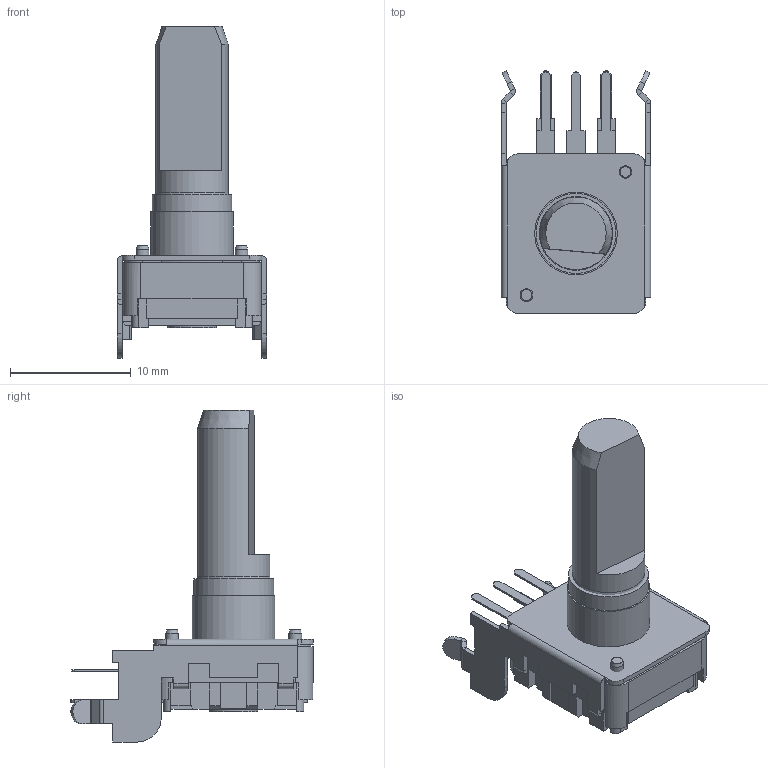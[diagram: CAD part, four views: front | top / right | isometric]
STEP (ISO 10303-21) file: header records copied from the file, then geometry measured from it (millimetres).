
FILE_DESCRIPTION(/* description */ (''),/* implementation_level */ '2;1');
FILE_NAME(/* name */ '\\Forward-ks-ad\開發專區\\X2\9AD896C45EE08A2D8A088AB2\X0\\設計機種開發作業\\X2\91CF75226A5F7A2E5C086848\X0\\ENCODER\機種開發\Encoder\DC12K\3D\CTS\DC12S12102F501.stp',/* time_stamp */ '2020-06-17T11:51:53+08:00',/* author */ ('jia'),/* organization */ (''),/* preprocessor_version */ 'ST-DEVELOPER v15.2',/* originating_system */ 'Autodesk Inventor 2014',/* authorisation */ '');
FILE_SCHEMA (('AUTOMOTIVE_DESIGN { 1 0 10303 214 3 1 1 }'));
Length unit declared in the file: millimetre
Products named in the file (1): 組合1_Shrinkwrap_1
Bounding box: 12.4 x 20.1 x 27.51 mm (x, y, z)
Surface area: 1904.5 mm2 (no closed solid volume)
Topology: 0 solids, 20 shells, 290 faces, 825 edges, 539 vertices
Faces by surface type: plane 243, cylinder 43, cone 4
Full cylindrical faces by diameter (mm): 1.031 x1, 1.067 x1, 4 x1, 6 x1, 6.625 x1, 6.849 x1
Entity records: 9150 total; most frequent: CARTESIAN_POINT 1668, DIRECTION 1518, ORIENTED_EDGE 1458, EDGE_CURVE 815, LINE 682, VECTOR 682, VERTEX_POINT 538, AXIS2_PLACEMENT_3D 418
